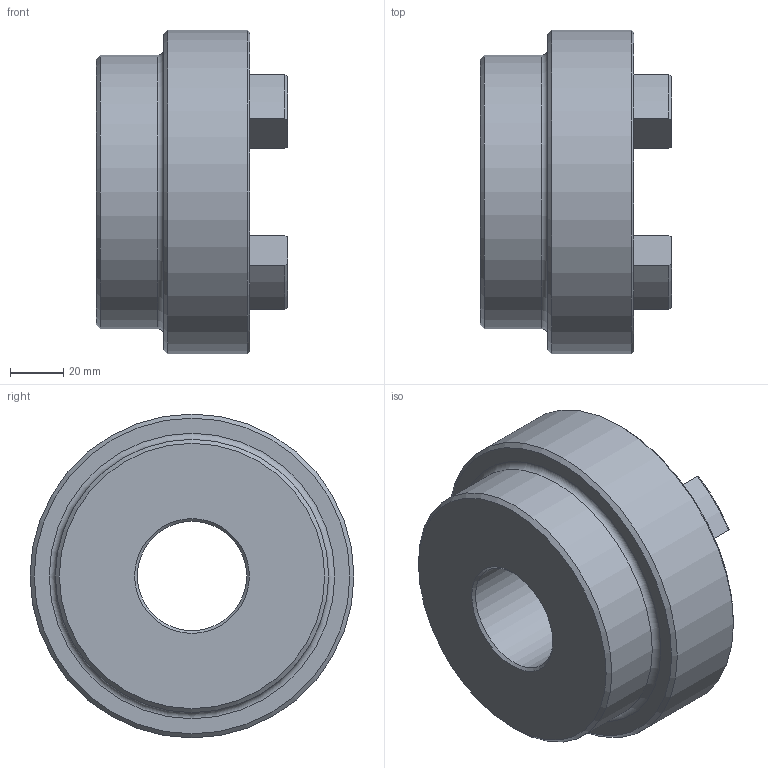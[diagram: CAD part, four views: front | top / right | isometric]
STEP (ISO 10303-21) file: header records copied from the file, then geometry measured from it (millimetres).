
FILE_DESCRIPTION (( 'STEP AP203' ), '1' );
FILE_NAME ('RC5.step', '2024-07-25T13:25:56', ( 'Adlan' ), ( '' ), 'SwSTEP 2.0', 'SolidWorks 2013', '' );
FILE_SCHEMA (( 'CONFIG_CONTROL_DESIGN' ));
Length unit declared in the file: inch
Products named in the file (1): RC5
Bounding box: 72.14 x 122.17 x 122.17 mm (x, y, z)
Volume: 424428.6 mm3; surface area: 58372 mm2
Topology: 1 solids, 1 shells, 76 faces, 189 edges, 117 vertices
Faces by surface type: cylinder 31, torus 17, plane 16, cone 12
Full cylindrical faces by diameter (mm): 41.288 x1, 103.124 x1, 122.174 x1
Entity records: 2349 total; most frequent: CARTESIAN_POINT 443, DIRECTION 416, ORIENTED_EDGE 358, EDGE_CURVE 179, AXIS2_PLACEMENT_3D 168, VERTEX_POINT 115, CIRCLE 91, EDGE_LOOP 88
